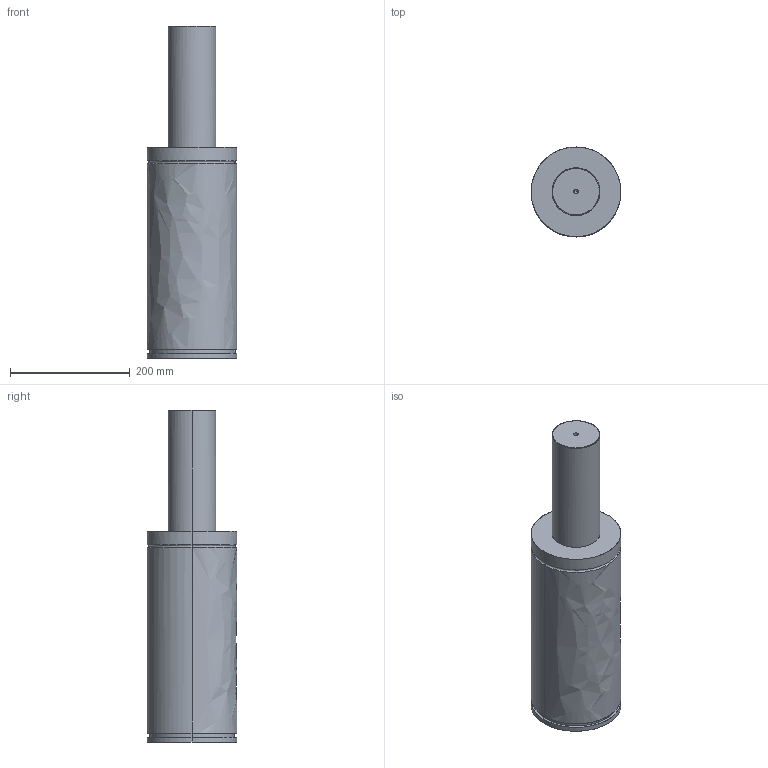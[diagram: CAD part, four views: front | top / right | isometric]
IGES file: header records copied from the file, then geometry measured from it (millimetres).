
Global section: file name: E:\UnigraphicsGraphicData\MISUMI_PRESS-PARTS\IGES\3d_gse150-200_03873_r00.igs; native system: NX V5.0; preprocessor: UGS NX IGES V5.0; author: MISUMI; date: 20110105.160754; units: millimetre
Bounding box: 150 x 150 x 555 mm (x, y, z)
Surface area: 260592 mm2 (no closed solid volume)
Topology: 0 solids, 0 shells, 75 faces, 604 edges, 602 vertices
Faces by surface type: bspline 75
